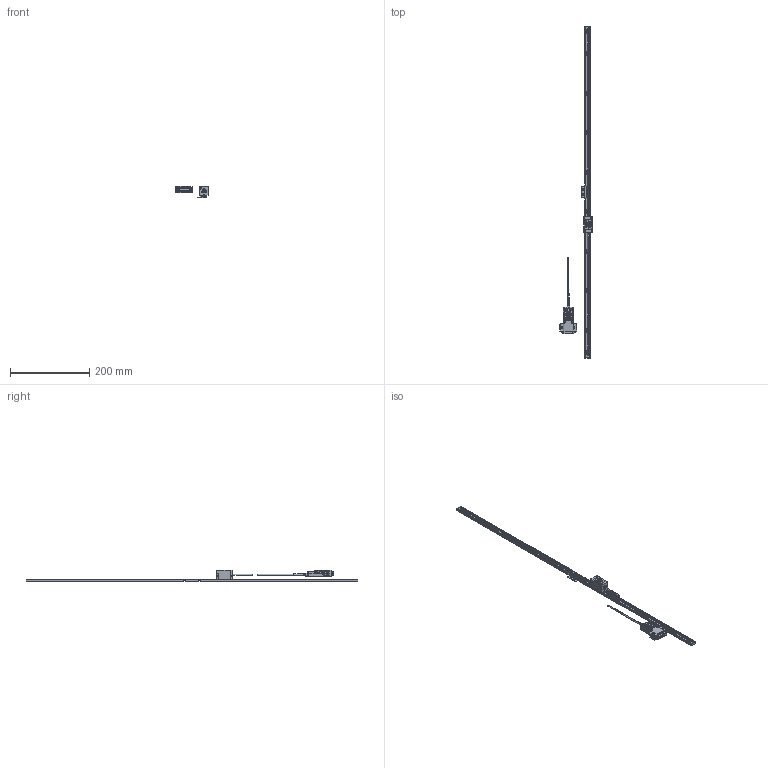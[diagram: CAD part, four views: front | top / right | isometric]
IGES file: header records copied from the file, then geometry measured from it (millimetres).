
Start section: Elysium IGES Interface
Global section: file name: 91HK:\20_商品設計\設計１課\個人\山室\05_作業中雑務\20220810_ST1300 3D HP掲載\ST1300-800F_G.igs; native system: Creo Elements/Direct Modeling 18.1I  13-Aug-2016; preprocessor: Creo Element/Direct IGES_3D V2.2; author: Unknown; organization: Unknown; date: 20220816.101439; units: millimetre
Bounding box: 83 x 840 x 30.1 mm (x, y, z)
Volume: 88397.1 mm3; surface area: 56816.6 mm2
Topology: 3 solids, 6 shells, 3462 faces, 9540 edges, 6226 vertices
Faces by surface type: bspline 3462
